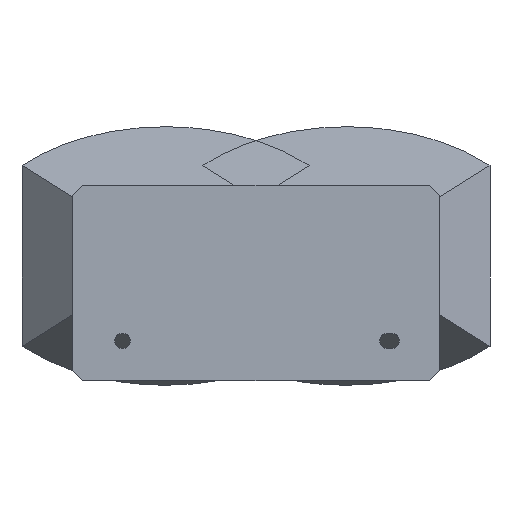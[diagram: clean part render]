
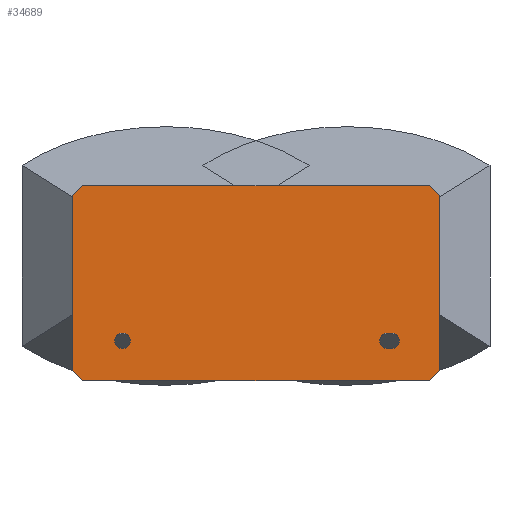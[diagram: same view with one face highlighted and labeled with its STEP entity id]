
A CAD part, top view. The second image highlights one B-rep face of the part: STEP entity #34689.
In plain terms, the highlighted planar face has unit normal (0, 0, 1).
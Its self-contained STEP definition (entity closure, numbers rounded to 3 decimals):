
#3618=DIRECTION('',(-1.,0.,0.));
#3619=VECTOR('',#3618,34.5);
#3620=CARTESIAN_POINT('',(-39.743,39.596,15.467));
#3621=LINE('',#3620,#3619);
#3901=CARTESIAN_POINT('',(-70.293,24.146,15.467));
#3902=DIRECTION('',(0.,0.,-1.));
#3903=DIRECTION('',(-1.,0.,0.));
#3904=AXIS2_PLACEMENT_3D('',#3901,#3902,#3903);
#3906=CARTESIAN_POINT('',(-70.293,24.146,15.467));
#3907=DIRECTION('',(0.,0.,-1.));
#3908=DIRECTION('',(1.,0.,0.));
#3909=AXIS2_PLACEMENT_3D('',#3906,#3907,#3908);
#3911=CARTESIAN_POINT('',(-43.493,24.146,15.467));
#3912=DIRECTION('',(0.,0.,1.));
#3913=DIRECTION('',(0.,-1.,0.));
#3914=AXIS2_PLACEMENT_3D('',#3911,#3912,#3913);
#3916=DIRECTION('',(0.707,0.707,0.));
#3917=VECTOR('',#3916,1.414);
#3918=CARTESIAN_POINT('',(-39.743,20.196,15.467));
#3919=LINE('',#3918,#3917);
#3920=DIRECTION('',(0.707,-0.707,0.));
#3921=VECTOR('',#3920,1.414);
#3922=CARTESIAN_POINT('',(-75.243,21.196,15.467));
#3923=LINE('',#3922,#3921);
#3924=DIRECTION('',(0.,-1.,0.));
#3925=VECTOR('',#3924,17.4);
#3926=CARTESIAN_POINT('',(-75.243,38.596,15.467));
#3927=LINE('',#3926,#3925);
#3928=DIRECTION('',(-0.707,-0.707,0.));
#3929=VECTOR('',#3928,1.414);
#3930=CARTESIAN_POINT('',(-74.243,39.596,15.467));
#3931=LINE('',#3930,#3929);
#3932=DIRECTION('',(-0.707,0.707,0.));
#3933=VECTOR('',#3932,1.414);
#3934=CARTESIAN_POINT('',(-38.743,38.596,15.467));
#3935=LINE('',#3934,#3933);
#3936=DIRECTION('',(0.,1.,0.));
#3937=VECTOR('',#3936,17.4);
#3938=CARTESIAN_POINT('',(-38.743,21.196,15.467));
#3939=LINE('',#3938,#3937);
#3948=DIRECTION('',(1.,0.,0.));
#3949=VECTOR('',#3948,0.4);
#3950=CARTESIAN_POINT('',(-43.893,23.371,15.467));
#3951=LINE('',#3950,#3949);
#3956=CARTESIAN_POINT('',(-43.893,24.146,15.467));
#3957=DIRECTION('',(0.,0.,-1.));
#3958=DIRECTION('',(0.,-1.,0.));
#3959=AXIS2_PLACEMENT_3D('',#3956,#3957,#3958);
#3970=DIRECTION('',(-1.,0.,0.));
#3971=VECTOR('',#3970,0.4);
#3972=CARTESIAN_POINT('',(-43.493,24.921,15.467));
#3973=LINE('',#3972,#3971);
#4032=DIRECTION('',(1.,0.,0.));
#4033=VECTOR('',#4032,34.5);
#4034=CARTESIAN_POINT('',(-74.243,20.196,15.467));
#4035=LINE('',#4034,#4033);
#30822=CARTESIAN_POINT('',(-43.893,23.371,
15.467));
#30823=CARTESIAN_POINT('',(-43.493,23.371,
15.467));
#30824=VERTEX_POINT('',#30822);
#30825=VERTEX_POINT('',#30823);
#30826=CARTESIAN_POINT('',(-43.493,24.921,
15.467));
#30827=CARTESIAN_POINT('',(-43.893,24.921,
15.467));
#30828=VERTEX_POINT('',#30826);
#30829=VERTEX_POINT('',#30827);
#30830=CARTESIAN_POINT('',(-71.068,24.146,
15.467));
#30831=CARTESIAN_POINT('',(-69.518,24.146,
15.467));
#30832=VERTEX_POINT('',#30830);
#30833=VERTEX_POINT('',#30831);
#31457=CARTESIAN_POINT('',(-39.743,20.196,
15.467));
#31458=CARTESIAN_POINT('',(-38.743,21.196,
15.467));
#31459=VERTEX_POINT('',#31457);
#31460=VERTEX_POINT('',#31458);
#31461=CARTESIAN_POINT('',(-75.243,21.196,
15.467));
#31462=CARTESIAN_POINT('',(-74.243,20.196,
15.467));
#31463=VERTEX_POINT('',#31461);
#31464=VERTEX_POINT('',#31462);
#31465=CARTESIAN_POINT('',(-38.743,38.596,
15.467));
#31466=CARTESIAN_POINT('',(-39.743,39.596,
15.467));
#31467=VERTEX_POINT('',#31465);
#31468=VERTEX_POINT('',#31466);
#31469=CARTESIAN_POINT('',(-74.243,39.596,
15.467));
#31470=CARTESIAN_POINT('',(-75.243,38.596,
15.467));
#31471=VERTEX_POINT('',#31469);
#31472=VERTEX_POINT('',#31470);
#34654=CARTESIAN_POINT('',(-70.843,20.446,
15.467));
#34655=DIRECTION('',(0.,0.,1.));
#34656=DIRECTION('',(1.,0.,0.));
#34657=AXIS2_PLACEMENT_3D('',#34654,#34655,#34656);
#34658=PLANE('',#34657);
#34660=ORIENTED_EDGE('',*,*,#34659,.F.);
#34662=ORIENTED_EDGE('',*,*,#34661,.F.);
#34664=ORIENTED_EDGE('',*,*,#34663,.F.);
#34666=ORIENTED_EDGE('',*,*,#34665,.F.);
#34668=ORIENTED_EDGE('',*,*,#34667,.F.);
#34669=ORIENTED_EDGE('',*,*,#33662,.F.);
#34670=ORIENTED_EDGE('',*,*,#33967,.F.);
#34672=ORIENTED_EDGE('',*,*,#34671,.F.);
#34673=EDGE_LOOP('',(#34660,#34662,#34664,#34666,#34668,#34669,#34670,#34672));
#34674=FACE_OUTER_BOUND('',#34673,.F.);
#34676=ORIENTED_EDGE('',*,*,#34675,.T.);
#34678=ORIENTED_EDGE('',*,*,#34677,.T.);
#34680=ORIENTED_EDGE('',*,*,#34679,.F.);
#34682=ORIENTED_EDGE('',*,*,#34681,.T.);
#34683=EDGE_LOOP('',(#34676,#34678,#34680,#34682));
#34684=FACE_BOUND('',#34683,.F.);
#34685=ORIENTED_EDGE('',*,*,#34636,.F.);
#34686=ORIENTED_EDGE('',*,*,#34649,.F.);
#34687=EDGE_LOOP('',(#34685,#34686));
#34688=FACE_BOUND('',#34687,.F.);
#34689=ADVANCED_FACE('',(#34674,#34684,#34688),#34658,.T.);
#3905=CIRCLE('',#3904,0.775);
#3910=CIRCLE('',#3909,0.775);
#3915=CIRCLE('',#3914,0.775);
#3960=CIRCLE('',#3959,0.775);
#33662=EDGE_CURVE('',#31468,#31471,#3621,.T.);
#33967=EDGE_CURVE('',#31467,#31468,#3935,.T.);
#34636=EDGE_CURVE('',#30832,#30833,#3905,.T.);
#34649=EDGE_CURVE('',#30833,#30832,#3910,.T.);
#34659=EDGE_CURVE('',#31459,#31460,#3919,.T.);
#34661=EDGE_CURVE('',#31464,#31459,#4035,.T.);
#34663=EDGE_CURVE('',#31463,#31464,#3923,.T.);
#34665=EDGE_CURVE('',#31472,#31463,#3927,.T.);
#34667=EDGE_CURVE('',#31471,#31472,#3931,.T.);
#34671=EDGE_CURVE('',#31460,#31467,#3939,.T.);
#34675=EDGE_CURVE('',#30825,#30828,#3915,.T.);
#34677=EDGE_CURVE('',#30828,#30829,#3973,.T.);
#34679=EDGE_CURVE('',#30824,#30829,#3960,.T.);
#34681=EDGE_CURVE('',#30824,#30825,#3951,.T.);
